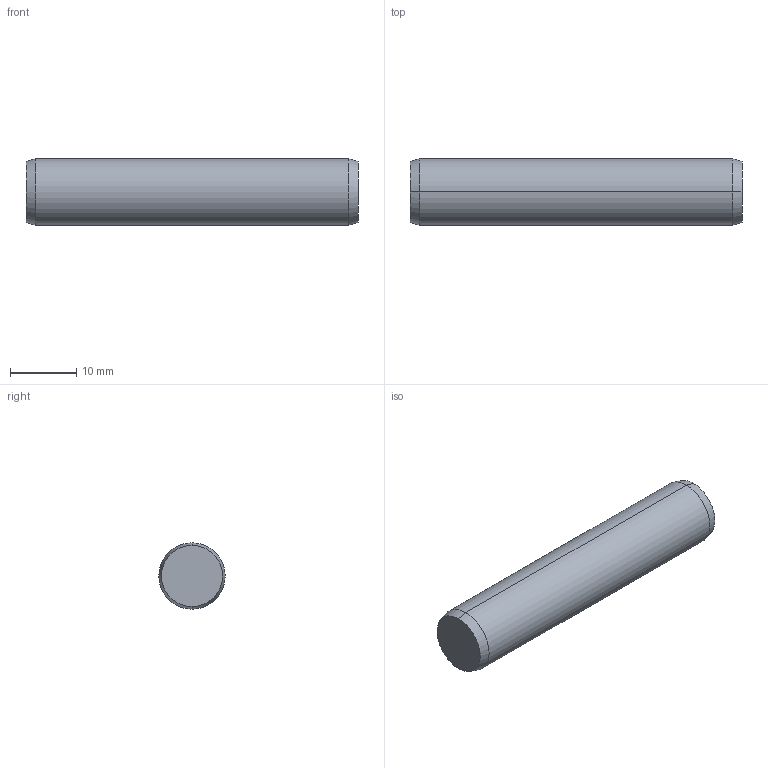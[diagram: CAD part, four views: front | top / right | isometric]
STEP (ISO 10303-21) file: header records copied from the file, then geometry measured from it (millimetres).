
FILE_DESCRIPTION (( 'STEP AP203' ), '1' );
FILE_NAME ('P1206.100-050.step', '2017-06-14T08:33:23', ( 'User' ), ( '' ), 'SwSTEP 2.0', 'SolidWorks 2009', '' );
FILE_SCHEMA (( 'CONFIG_CONTROL_DESIGN' ));
Length unit declared in the file: millimetre
Products named in the file (1): P1206.100-050
Bounding box: 50 x 10 x 10 mm (x, y, z)
Volume: 3908.6 mm3; surface area: 1703 mm2
Topology: 1 solids, 1 shells, 8 faces, 14 edges, 8 vertices
Faces by surface type: cone 4, cylinder 2, plane 2
Entity records: 271 total; most frequent: DIRECTION 40, CARTESIAN_POINT 31, ORIENTED_EDGE 28, AXIS2_PLACEMENT_3D 17, EDGE_CURVE 14, PERSON_AND_ORGANIZATION 8, VERTEX_POINT 8, ADVANCED_FACE 8
